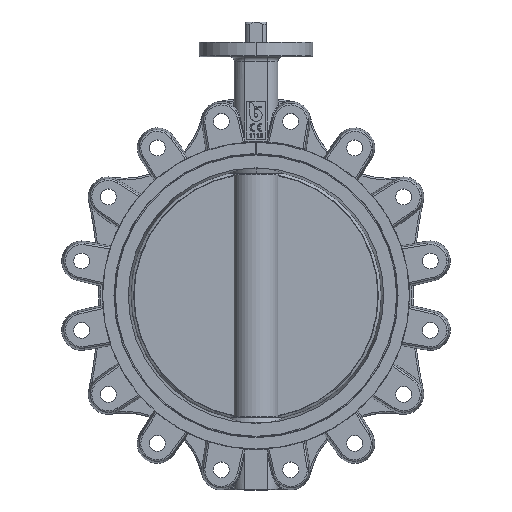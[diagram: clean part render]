
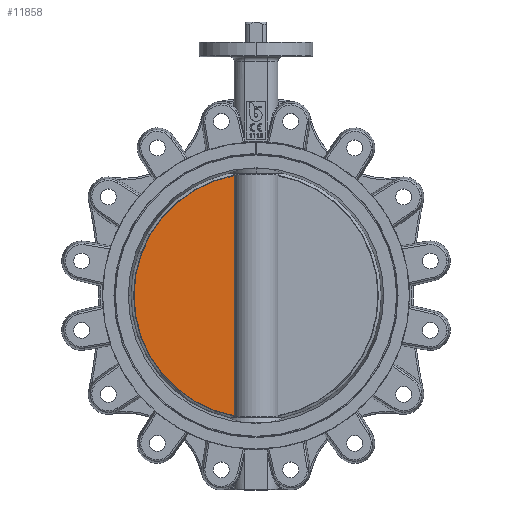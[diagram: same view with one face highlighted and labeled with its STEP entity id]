
A CAD part, top view. The second image highlights one B-rep face of the part: STEP entity #11858.
In plain terms, the highlighted planar face has unit normal (-0.002, 0, 1).
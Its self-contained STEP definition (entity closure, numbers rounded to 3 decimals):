
#4639 = AXIS2_PLACEMENT_3D ( 'NONE', #33037, #15166, #27214 ) ;
#6727 = DIRECTION ( 'NONE',  ( 0., -1., 0. ) ) ;
#8504 = EDGE_CURVE ( 'NONE', #29498, #20412, #32732, .T. ) ;
#9836 = EDGE_CURVE ( 'NONE', #20412, #29498, #11383, .T. ) ;
#11383 = CIRCLE ( 'NONE', #17169, 161.365 ) ;
#11858 = ADVANCED_FACE ( 'NONE', ( #29252 ), #12164, .T. ) ;
#12164 = PLANE ( 'NONE',  #4639 ) ;
#15166 = DIRECTION ( 'NONE',  ( -0.002, 0., 1. ) ) ;
#17169 = AXIS2_PLACEMENT_3D ( 'NONE', #33348, #24762, #6727 ) ;
#17337 = VECTOR ( 'NONE', #29188, 1000. ) ;
#18363 = ORIENTED_EDGE ( 'NONE', *, *, #8504, .T. ) ;
#20412 = VERTEX_POINT ( 'NONE', #22394 ) ;
#20417 = CARTESIAN_POINT ( 'NONE',  ( -28.93, 178.05, 7.942 ) ) ;
#22394 = CARTESIAN_POINT ( 'NONE',  ( -28.93, 158.754, 7.942 ) ) ;
#24762 = DIRECTION ( 'NONE',  ( -0.002, 0., 1. ) ) ;
#25727 = EDGE_LOOP ( 'NONE', ( #38364, #18363 ) ) ;
#27214 = DIRECTION ( 'NONE',  ( 0., -1., 0. ) ) ;
#29188 = DIRECTION ( 'NONE',  ( 0., 1., 0. ) ) ;
#29252 = FACE_OUTER_BOUND ( 'NONE', #25727, .T. ) ;
#29498 = VERTEX_POINT ( 'NONE', #38597 ) ;
#32732 = LINE ( 'NONE', #20417, #17337 ) ;
#33037 = CARTESIAN_POINT ( 'NONE',  ( -0.016, 0., 8. ) ) ;
#33348 = CARTESIAN_POINT ( 'NONE',  ( -0.016, 0., 8. ) ) ;
#38364 = ORIENTED_EDGE ( 'NONE', *, *, #9836, .T. ) ;
#38597 = CARTESIAN_POINT ( 'NONE',  ( -28.93, -158.754, 7.942 ) ) ;
